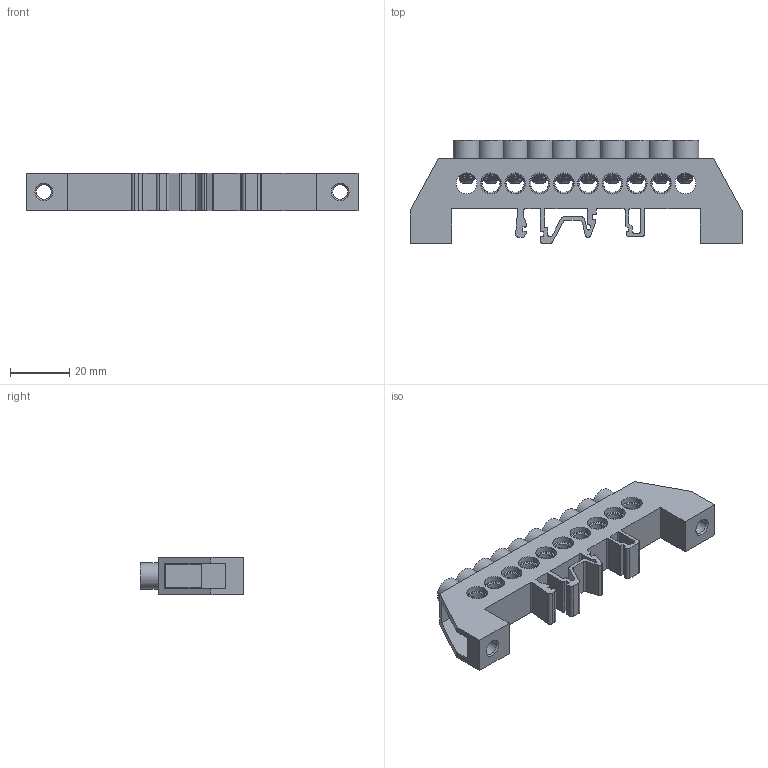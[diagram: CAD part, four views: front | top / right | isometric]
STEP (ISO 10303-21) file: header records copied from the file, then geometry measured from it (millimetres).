
FILE_DESCRIPTION (( 'STEP AP214' ), '1' );
FILE_NAME ('Øèíà íóëåâàÿ â êîìáèíèðîâàííîé èçîëÿöèè 8õ12 10.STEP', '2020-02-06T11:20:31', ( '' ), ( '' ), 'SwSTEP 2.0', 'SolidWorks 2018', '' );
FILE_SCHEMA (( 'AUTOMOTIVE_DESIGN' ));
Length unit declared in the file: millimetre
Products named in the file (4): Øèíà íóëåâàÿ â êîìáèíèðîâàííîé èçîëÿöèè 8õ12 10; Âèíò ì5; Øèíà 8õ12 10; Êîðïóñ èçîëÿöèè 8õ12 10
Assembly tree (12 placements, depth 2):
  Øèíà íóëåâàÿ â êîìáèíèðîâàííîé èçîëÿöèè 8õ12 10
    Êîðïóñ èçîëÿöèè 8õ12 10
    Øèíà 8õ12 10
    Âèíò ì5  x10
Bounding box: 112 x 34.8 x 12.5 mm (x, y, z)
Volume: 22078.2 mm3; surface area: 24044.6 mm2
Topology: 12 solids, 12 shells, 1035 faces, 2906 edges, 1884 vertices
Faces by surface type: cylinder 445, plane 346, cone 144, torus 70, bspline 30
Entity records: 14773 total; most frequent: CARTESIAN_POINT 4735, DIRECTION 2041, ORIENTED_EDGE 2028, EDGE_CURVE 1014, AXIS2_PLACEMENT_3D 767, VERTEX_POINT 660, VECTOR 507, LINE 507
